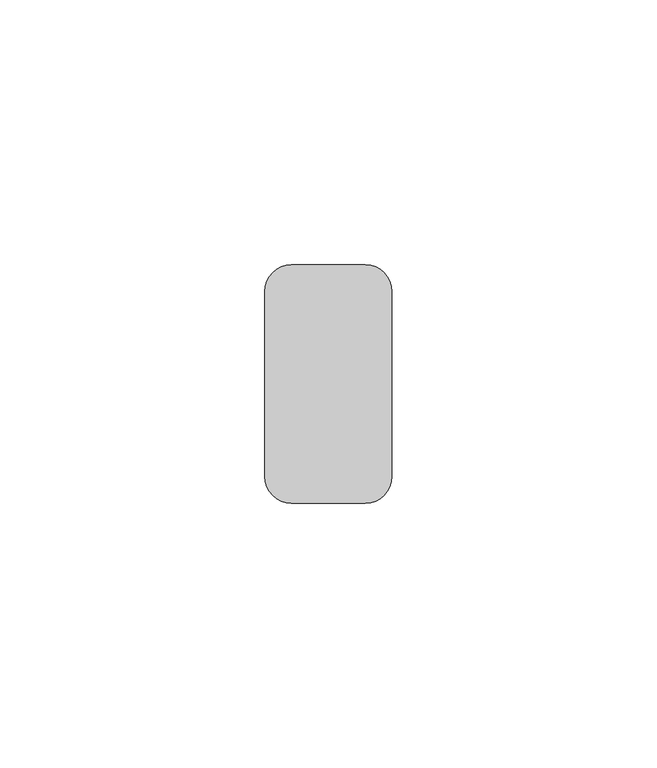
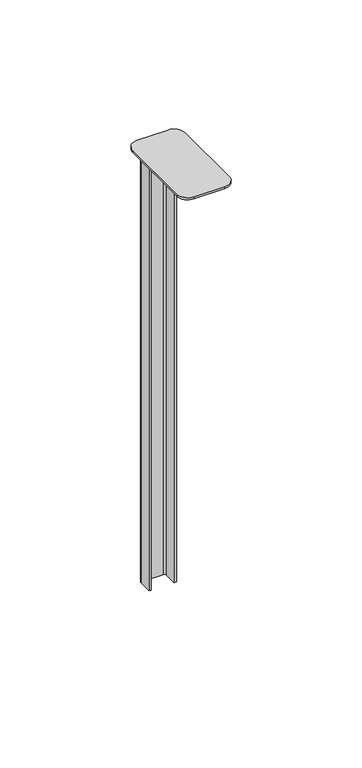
"""IFC4 building model written with IfcOpenShell, lengths in millimetres: proxy geometry, durlum_U1300 : durlum_U1300."""

from ifc_helpers import new_model, si_unit, point, frame, frame_2d, origin, place, context, project, spatial, polyline, circle_curve, trimmed, segment, composite_curve, outline, extrude, source, transform, mapped, element, save


def generic_models_b4a88b9d(model_context):
    return source(origin(), model_context, "Body", "SweptSolid", [
        extrude(outline(composite_curve([segment(trimmed(circle_curve(frame_2d((7.0, -5.0)), 5.0), [point((7.0, 0.0))], [point((12.0, -5.0))], False, "CARTESIAN"), True, "CONTINUOUS"), segment(polyline([(12.0, -5.0), (12.0, -40.0)]), True, "CONTINUOUS"), segment(trimmed(circle_curve(frame_2d((7.0, -40.0)), 5.0), [point((12.0, -40.0))], [point((7.0, -45.0))], False, "CARTESIAN"), True, "CONTINUOUS"), segment(polyline([(7.0, -45.0), (-7.0, -45.0)]), True, "CONTINUOUS"), segment(trimmed(circle_curve(frame_2d((-7.0, -40.0)), 5.0), [point((-7.0, -45.0))], [point((-12.0, -40.0))], False, "CARTESIAN"), True, "CONTINUOUS"), segment(polyline([(-12.0, -40.0), (-12.0, -5.0)]), True, "CONTINUOUS"), segment(trimmed(circle_curve(frame_2d((-7.0, -5.0)), 5.0), [point((-12.0, -5.0))], [point((-7.0, 0.0))], False, "CARTESIAN"), True, "CONTINUOUS"), segment(polyline([(-7.0, 0.0), (7.0, 0.0)]), True, "CONTINUOUS")], self_intersect=False)), frame((0.0, 0.0, 928.5875318), z_axis=(0.0, 0.0, 1.0), x_axis=(1.0, 0.0, 0.0)), (0.0, 0.0, 1.0), 1.0),
        extrude(outline(composite_curve([segment(trimmed(circle_curve(frame_2d((-4.25, -2.0)), 2.0), [point((-6.25, -2.0))], [point((-4.25, 0.0))], False, "CARTESIAN"), True, "CONTINUOUS"), segment(polyline([(-4.25, 0.0), (4.25, 0.0)]), True, "CONTINUOUS"), segment(trimmed(circle_curve(frame_2d((4.25, -2.0)), 2.0), [point((4.25, 0.0))], [point((6.25, -2.0))], False, "CARTESIAN"), True, "CONTINUOUS"), segment(polyline([(6.25, -2.0), (6.25, -8.0), (5.25, -8.0), (5.25, -2.0)]), True, "CONTINUOUS"), segment(trimmed(circle_curve(frame_2d((4.25, -2.0)), 1.0), [point((5.25, -2.0))], [point((4.25, -1.0))], True, "CARTESIAN"), True, "CONTINUOUS"), segment(polyline([(4.25, -1.0), (-4.25, -1.0)]), True, "CONTINUOUS"), segment(trimmed(circle_curve(frame_2d((-4.25, -2.0)), 1.0), [point((-4.25, -1.0))], [point((-5.25, -2.0))], True, "CARTESIAN"), True, "CONTINUOUS"), segment(polyline([(-5.25, -2.0), (-5.25, -8.0), (-6.25, -8.0), (-6.25, -2.0)]), True, "CONTINUOUS")], self_intersect=False)), frame((0.0, 0.0, 716.5875318), z_axis=(0.0, 0.0, 1.0), x_axis=(1.0, 0.0, 0.0)), (0.0, 0.0, 1.0), 212.0),
    ])


if __name__ == "__main__":
    model = new_model("IFC4")
    model_context = context("Model", 3, world=origin())
    ifc_project = project(units=[si_unit("LENGTHUNIT", "METRE", prefix="MILLI")], contexts=[model_context])
    site = spatial("IfcSite", under=ifc_project)
    building = spatial("IfcBuilding", under=site)
    placement = place(None, origin())
    generic_models_shape = generic_models_b4a88b9d(model_context)
    element("IfcBuildingElementProxy", 1, Name="durlum_U1300 : durlum_U1300", ObjectType="durlum_U1300 : durlum_U1300", at=placement, inside=building, context=model_context, shape_type="MappedRepresentation", body=[
        mapped(generic_models_shape, transform((0.0, 0.0, 0.0), x_axis=(1.0, 0.0, 0.0), y_axis=(0.0, 1.0, 0.0), z_axis=(0.0, 0.0, 1.0))),
    ])
    save(model, "model.ifc")
